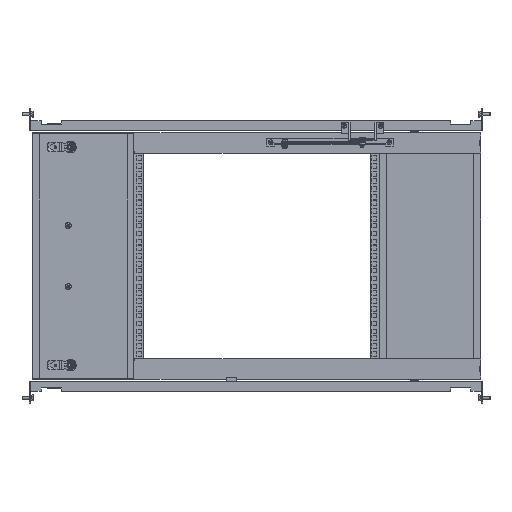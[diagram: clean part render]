
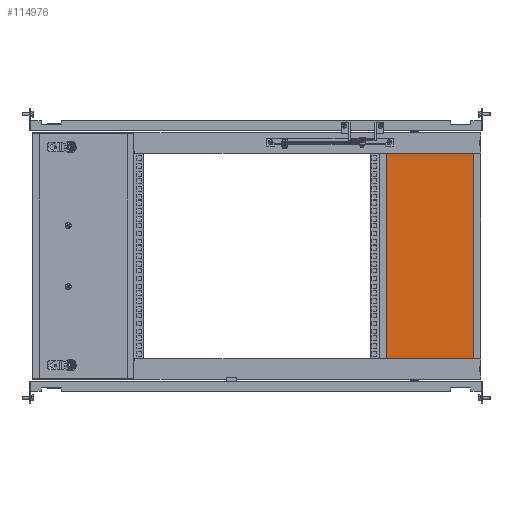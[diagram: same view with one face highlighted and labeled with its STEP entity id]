
A CAD part, top view. The second image highlights one B-rep face of the part: STEP entity #114976.
In plain terms, the highlighted planar face has unit normal (0, 0, 1).
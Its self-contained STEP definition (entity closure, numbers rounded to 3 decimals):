
#114637 = VERTEX_POINT('',#114638);
#114638 = CARTESIAN_POINT('',(-98.5,-201.65,0.));
#114644 = EDGE_CURVE('',#114645,#114637,#114647,.T.);
#114645 = VERTEX_POINT('',#114646);
#114646 = CARTESIAN_POINT('',(-98.5,201.65,0.));
#114647 = LINE('',#114648,#114649);
#114648 = CARTESIAN_POINT('',(-98.5,0.,
    0.));
#114649 = VECTOR('',#114650,1.);
#114650 = DIRECTION('',(0.,-1.,0.));
#114857 = VERTEX_POINT('',#114858);
#114858 = CARTESIAN_POINT('',(98.5,201.65,0.));
#114864 = EDGE_CURVE('',#114865,#114857,#114867,.T.);
#114865 = VERTEX_POINT('',#114866);
#114866 = CARTESIAN_POINT('',(98.5,-201.65,0.));
#114867 = LINE('',#114868,#114869);
#114868 = CARTESIAN_POINT('',(98.5,0.,
    0.));
#114869 = VECTOR('',#114870,1.);
#114870 = DIRECTION('',(0.,1.,0.));
#114976 = ADVANCED_FACE('',(#114977),#115057,.T.);
#114977 = FACE_BOUND('',#114978,.T.);
#114978 = EDGE_LOOP('',(#114979,#114989,#114995,#114996,#115004,#115012,
    #115020,#115028,#115034,#115035,#115043,#115051));
#114979 = ORIENTED_EDGE('',*,*,#114980,.F.);
#114980 = EDGE_CURVE('',#114981,#114983,#114985,.T.);
#114981 = VERTEX_POINT('',#114982);
#114982 = CARTESIAN_POINT('',(-97.9,201.65,0.));
#114983 = VERTEX_POINT('',#114984);
#114984 = CARTESIAN_POINT('',(-97.9,202.25,0.));
#114985 = LINE('',#114986,#114987);
#114986 = CARTESIAN_POINT('',(-97.9,0.,0.));
#114987 = VECTOR('',#114988,1.);
#114988 = DIRECTION('',(-0.,1.,-0.));
#114989 = ORIENTED_EDGE('',*,*,#114990,.T.);
#114990 = EDGE_CURVE('',#114981,#114645,#114991,.T.);
#114991 = LINE('',#114992,#114993);
#114992 = CARTESIAN_POINT('',(-97.9,201.65,0.));
#114993 = VECTOR('',#114994,1.);
#114994 = DIRECTION('',(-1.,-0.,-0.));
#114995 = ORIENTED_EDGE('',*,*,#114644,.T.);
#114996 = ORIENTED_EDGE('',*,*,#114997,.F.);
#114997 = EDGE_CURVE('',#114998,#114637,#115000,.T.);
#114998 = VERTEX_POINT('',#114999);
#114999 = CARTESIAN_POINT('',(-97.9,-201.65,0.));
#115000 = LINE('',#115001,#115002);
#115001 = CARTESIAN_POINT('',(0.,-201.65,0.));
#115002 = VECTOR('',#115003,1.);
#115003 = DIRECTION('',(-1.,-0.,-0.));
#115004 = ORIENTED_EDGE('',*,*,#115005,.T.);
#115005 = EDGE_CURVE('',#114998,#115006,#115008,.T.);
#115006 = VERTEX_POINT('',#115007);
#115007 = CARTESIAN_POINT('',(-97.9,-202.25,0.));
#115008 = LINE('',#115009,#115010);
#115009 = CARTESIAN_POINT('',(-97.9,-201.65,0.));
#115010 = VECTOR('',#115011,1.);
#115011 = DIRECTION('',(-0.,-1.,-0.));
#115012 = ORIENTED_EDGE('',*,*,#115013,.T.);
#115013 = EDGE_CURVE('',#115006,#115014,#115016,.T.);
#115014 = VERTEX_POINT('',#115015);
#115015 = CARTESIAN_POINT('',(97.9,-202.25,0.));
#115016 = LINE('',#115017,#115018);
#115017 = CARTESIAN_POINT('',(0.,-202.25,
    0.));
#115018 = VECTOR('',#115019,1.);
#115019 = DIRECTION('',(1.,0.,-0.));
#115020 = ORIENTED_EDGE('',*,*,#115021,.F.);
#115021 = EDGE_CURVE('',#115022,#115014,#115024,.T.);
#115022 = VERTEX_POINT('',#115023);
#115023 = CARTESIAN_POINT('',(97.9,-201.65,0.));
#115024 = LINE('',#115025,#115026);
#115025 = CARTESIAN_POINT('',(97.9,0.,0.));
#115026 = VECTOR('',#115027,1.);
#115027 = DIRECTION('',(-0.,-1.,-0.));
#115028 = ORIENTED_EDGE('',*,*,#115029,.T.);
#115029 = EDGE_CURVE('',#115022,#114865,#115030,.T.);
#115030 = LINE('',#115031,#115032);
#115031 = CARTESIAN_POINT('',(97.9,-201.65,0.));
#115032 = VECTOR('',#115033,1.);
#115033 = DIRECTION('',(1.,-0.,-0.));
#115034 = ORIENTED_EDGE('',*,*,#114864,.T.);
#115035 = ORIENTED_EDGE('',*,*,#115036,.F.);
#115036 = EDGE_CURVE('',#115037,#114857,#115039,.T.);
#115037 = VERTEX_POINT('',#115038);
#115038 = CARTESIAN_POINT('',(97.9,201.65,0.));
#115039 = LINE('',#115040,#115041);
#115040 = CARTESIAN_POINT('',(0.,201.65,0.));
#115041 = VECTOR('',#115042,1.);
#115042 = DIRECTION('',(1.,-0.,-0.));
#115043 = ORIENTED_EDGE('',*,*,#115044,.T.);
#115044 = EDGE_CURVE('',#115037,#115045,#115047,.T.);
#115045 = VERTEX_POINT('',#115046);
#115046 = CARTESIAN_POINT('',(97.9,202.25,0.));
#115047 = LINE('',#115048,#115049);
#115048 = CARTESIAN_POINT('',(97.9,201.65,0.));
#115049 = VECTOR('',#115050,1.);
#115050 = DIRECTION('',(0.,1.,-0.));
#115051 = ORIENTED_EDGE('',*,*,#115052,.F.);
#115052 = EDGE_CURVE('',#114983,#115045,#115053,.T.);
#115053 = LINE('',#115054,#115055);
#115054 = CARTESIAN_POINT('',(0.,202.25,0.));
#115055 = VECTOR('',#115056,1.);
#115056 = DIRECTION('',(1.,0.,0.));
#115057 = PLANE('',#115058);
#115058 = AXIS2_PLACEMENT_3D('',#115059,#115060,#115061);
#115059 = CARTESIAN_POINT('',(0.,0.,0.));
#115060 = DIRECTION('',(0.,-0.,1.));
#115061 = DIRECTION('',(1.,0.,0.));
